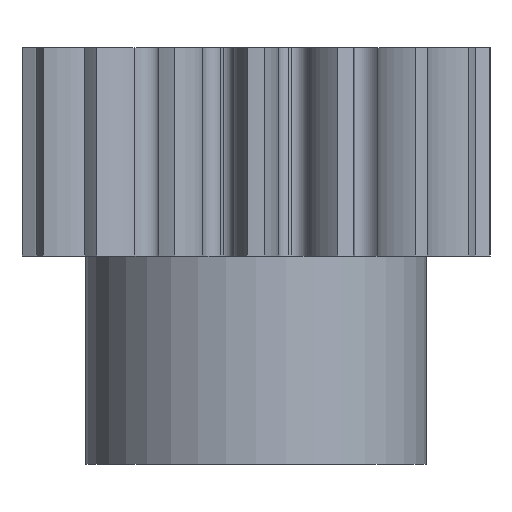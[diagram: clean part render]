
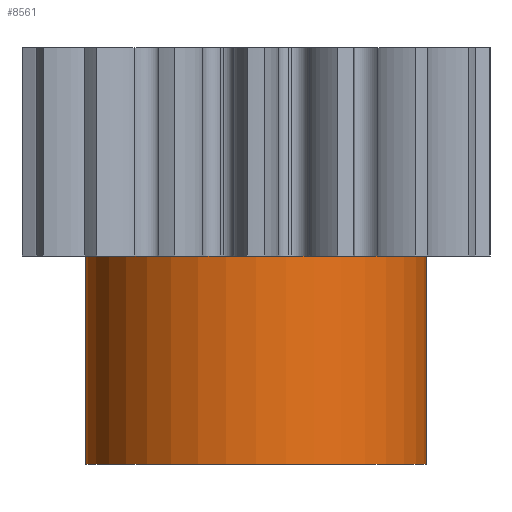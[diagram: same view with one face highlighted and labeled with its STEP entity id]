
A CAD part, front view. The second image highlights one B-rep face of the part: STEP entity #8561.
In plain terms, the highlighted cylindrical face has radius 5.199 mm (diameter 10.399 mm), a partial arc.
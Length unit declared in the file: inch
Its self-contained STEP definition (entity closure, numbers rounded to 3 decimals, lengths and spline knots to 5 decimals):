
#521 = VERTEX_POINT ( 'NONE', #14009 ) ;
#632 = LINE ( 'NONE', #8007, #6149 ) ;
#738 = DIRECTION ( 'NONE',  ( -1., 0., 0. ) ) ;
#823 = DIRECTION ( 'NONE',  ( 0., 0., 1. ) ) ;
#1402 = EDGE_CURVE ( 'NONE', #521, #6185, #632, .T. ) ;
#1458 = CARTESIAN_POINT ( 'NONE',  ( 0.2047, 0., -0.25 ) ) ;
#2041 = ORIENTED_EDGE ( 'NONE', *, *, #4454, .T. ) ;
#2060 = DIRECTION ( 'NONE',  ( -1., 0., 0. ) ) ;
#2297 = AXIS2_PLACEMENT_3D ( 'NONE', #14205, #8120, #738 ) ;
#4454 = EDGE_CURVE ( 'NONE', #4799, #6185, #13734, .T. ) ;
#4471 = FACE_OUTER_BOUND ( 'NONE', #9438, .T. ) ;
#4487 = EDGE_CURVE ( 'NONE', #14609, #4799, #7161, .T. ) ;
#4505 = ORIENTED_EDGE ( 'NONE', *, *, #11669, .F. ) ;
#4799 = VERTEX_POINT ( 'NONE', #12229 ) ;
#5271 = DIRECTION ( 'NONE',  ( 0., 0., 1. ) ) ;
#6033 = VECTOR ( 'NONE', #13950, 39.37008 ) ;
#6149 = VECTOR ( 'NONE', #823, 39.37008 ) ;
#6185 = VERTEX_POINT ( 'NONE', #12714 ) ;
#6485 = CARTESIAN_POINT ( 'NONE',  ( 0., 0., -0.25 ) ) ;
#6838 = AXIS2_PLACEMENT_3D ( 'NONE', #6485, #5271, #11516 ) ;
#6878 = CARTESIAN_POINT ( 'NONE',  ( 0.2047, 0., -0.25 ) ) ;
#7161 = LINE ( 'NONE', #6878, #6033 ) ;
#8007 = CARTESIAN_POINT ( 'NONE',  ( -0.2047, 0., -0.25 ) ) ;
#8120 = DIRECTION ( 'NONE',  ( 0., 0., -1. ) ) ;
#8137 = ORIENTED_EDGE ( 'NONE', *, *, #1402, .F. ) ;
#8561 = ADVANCED_FACE ( 'NONE', ( #4471 ), #11847, .T. ) ;
#9323 = DIRECTION ( 'NONE',  ( 0., 0., -1. ) ) ;
#9438 = EDGE_LOOP ( 'NONE', ( #8137, #4505, #12928, #2041 ) ) ;
#11516 = DIRECTION ( 'NONE',  ( 1., 0., 0. ) ) ;
#11669 = EDGE_CURVE ( 'NONE', #14609, #521, #15639, .T. ) ;
#11847 = CYLINDRICAL_SURFACE ( 'NONE', #6838, 0.2047 ) ;
#12229 = CARTESIAN_POINT ( 'NONE',  ( 0.2047, 0., 0. ) ) ;
#12714 = CARTESIAN_POINT ( 'NONE',  ( -0.2047, 0., 0. ) ) ;
#12928 = ORIENTED_EDGE ( 'NONE', *, *, #4487, .T. ) ;
#13734 = CIRCLE ( 'NONE', #15024, 0.2047 ) ;
#13950 = DIRECTION ( 'NONE',  ( 0., 0., 1. ) ) ;
#14009 = CARTESIAN_POINT ( 'NONE',  ( -0.2047, 0., -0.25 ) ) ;
#14205 = CARTESIAN_POINT ( 'NONE',  ( 0., 0., -0.25 ) ) ;
#14609 = VERTEX_POINT ( 'NONE', #1458 ) ;
#15024 = AXIS2_PLACEMENT_3D ( 'NONE', #15390, #9323, #2060 ) ;
#15390 = CARTESIAN_POINT ( 'NONE',  ( 0., 0., 0. ) ) ;
#15639 = CIRCLE ( 'NONE', #2297, 0.2047 ) ;
